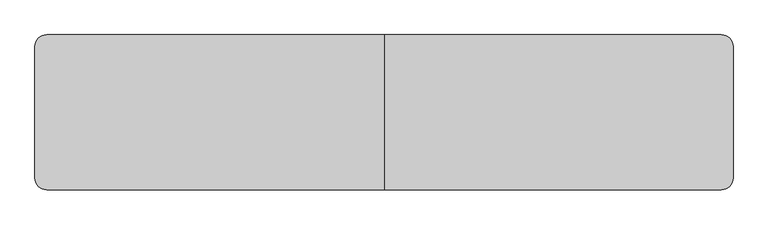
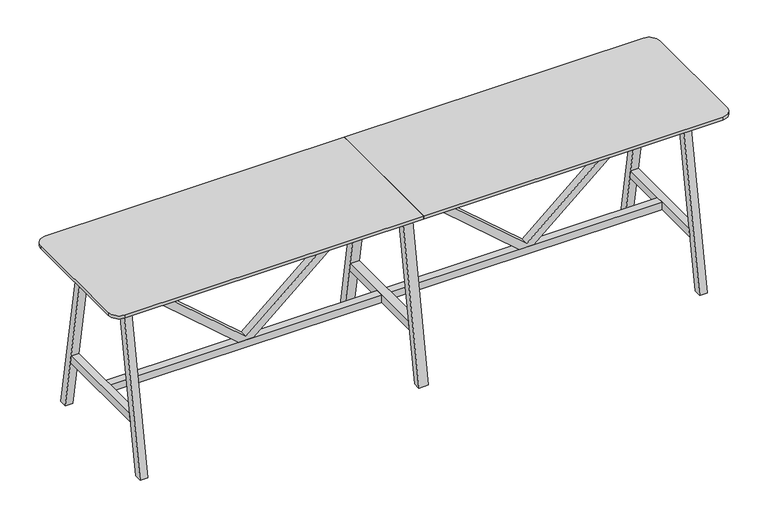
"""IFC4 building model written with IfcOpenShell, lengths in millimetres: furniture geometry, BDG_BossDesign_Tbls_AgentTables6Legs : AGE-HT-6L-3600-800-3D."""

from ifc_helpers import new_model, si_unit, point, frame, frame_2d, origin, place, context, project, spatial, polyline, circle_curve, trimmed, segment, composite_curve, outline, extrude, source, transform, mapped, element, save


def furniture_dbc55a2c(model_context):
    return source(origin(), model_context, "Body", "SweptSolid", [
        extrude(outline(polyline([(345.0, 774.0823957), (345.0, 858.4176043), (992.0, 1605.0), (1032.0, 1605.0), (1032.0, 1585.0), (365.0, 816.25), (1032.0, 47.5), (1032.0, 27.5), (992.0, 27.5), (345.0, 774.0823957)])), frame((0.0, -22.5000305, 0.0), z_axis=(0.0, 1.0, 0.0), x_axis=(0.0, 0.0, 1.0)), (0.0, 0.0, 1.0), 45.000061),
        extrude(outline(polyline([(345.0, -774.0823957), (992.0, -27.5), (1032.0, -27.5), (1032.0, -47.5), (365.0, -816.25), (1032.0, -1585.0), (1032.0, -1605.0), (992.0, -1605.0), (345.0, -858.4176043), (345.0, -774.0823957)])), frame((0.0, -22.5000305, 0.0), z_axis=(0.0, 1.0, 0.0), x_axis=(0.0, 0.0, 1.0)), (0.0, 0.0, 1.0), 45.000061),
        extrude(outline(polyline([(400.0, 0.0), (354.9999949, 0.0), (185.5, 970.0), (230.5000051, 970.0), (400.0, 0.0)])), frame((-27.5, 0.0, 0.0), z_axis=(1.0, 0.0, 0.0), x_axis=(0.0, 1.0, 0.0)), (0.0, 0.0, 1.0), 55.0),
        extrude(outline(polyline([(-400.0, 0.0), (-230.5000051, 970.0), (-185.5, 970.0), (-354.9999949, 0.0), (-400.0, 0.0)])), frame((-27.5, 0.0, 0.0), z_axis=(1.0, 0.0, 0.0), x_axis=(0.0, 1.0, 0.0)), (0.0, 0.0, 1.0), 55.0),
        extrude(outline(polyline([(302.5773161, 300.0), (-302.5773161, 300.0), (-294.7139143, 345.0), (294.7139143, 345.0), (302.5773161, 300.0)])), frame((-27.5, 0.0, 0.0), z_axis=(1.0, 0.0, 0.0), x_axis=(0.0, 1.0, 0.0)), (0.0, 0.0, 1.0), 55.0),
        extrude(outline(composite_curve([segment(polyline([(0.0, 400.0), (0.0, -400.0), (-1740.0, -400.0)]), True, "CONTINUOUS"), segment(trimmed(circle_curve(frame_2d((-1740.0, -340.0)), 60.0), [point((-1740.0, -400.0))], [point((-1800.0, -340.0))], False, "CARTESIAN"), True, "CONTINUOUS"), segment(polyline([(-1800.0, -340.0), (-1800.0, 340.0)]), True, "CONTINUOUS"), segment(trimmed(circle_curve(frame_2d((-1740.0, 340.0)), 60.0), [point((-1800.0, 340.0))], [point((-1740.0, 400.0))], False, "CARTESIAN"), True, "CONTINUOUS"), segment(polyline([(-1740.0, 400.0), (0.0, 400.0)]), True, "CONTINUOUS")], self_intersect=False)), frame((0.0, 0.0, 1032.0), z_axis=(0.0, 0.0, 1.0), x_axis=(1.0, 0.0, 0.0)), (0.0, 0.0, 1.0), 18.0),
        extrude(outline(polyline([(-294.7139143, 345.0), (294.7139143, 345.0), (302.5773161, 300.0), (-302.5773161, 300.0), (-294.7139143, 345.0)])), frame((1605.0, 0.0, 0.0), z_axis=(1.0, 0.0, 0.0), x_axis=(0.0, 1.0, 0.0)), (0.0, 0.0, 1.0), 45.0),
        extrude(outline(polyline([(400.0, 0.0), (354.9999949, 0.0), (185.5, 970.0), (230.5000051, 970.0), (400.0, 0.0)])), frame((-1650.0, 0.0, 0.0), z_axis=(1.0, 0.0, 0.0), x_axis=(0.0, 1.0, 0.0)), (0.0, 0.0, 1.0), 45.0),
        extrude(outline(polyline([(-400.0, 0.0), (-230.5000051, 970.0), (-185.5, 970.0), (-354.9999949, 0.0), (-400.0, 0.0)])), frame((-1650.0, 0.0, 0.0), z_axis=(1.0, 0.0, 0.0), x_axis=(0.0, 1.0, 0.0)), (0.0, 0.0, 1.0), 45.0),
        extrude(outline(polyline([(-294.7139143, 345.0), (294.7139143, 345.0), (302.5773161, 300.0), (-302.5773161, 300.0), (-294.7139143, 345.0)])), frame((-1650.0, 0.0, 0.0), z_axis=(1.0, 0.0, 0.0), x_axis=(0.0, 1.0, 0.0)), (0.0, 0.0, 1.0), 45.0),
        extrude(outline(polyline([(-226.6006165, 944.973938), (-204.2770691, 1032.0), (-179.5, 1032.0), (-201.8235474, 944.973938), (-226.6006165, 944.973938)])), frame((-1605.0, 0.0, 0.0), z_axis=(1.0, 0.0, 0.0), x_axis=(0.0, 1.0, 0.0)), (0.0, 0.0, 1.0), 3210.0),
        extrude(outline(polyline([(226.6006165, 944.973938), (201.8235474, 944.973938), (179.5, 1032.0), (204.2770691, 1032.0), (226.6006165, 944.973938)])), frame((-1605.0, 0.0, 0.0), z_axis=(1.0, 0.0, 0.0), x_axis=(0.0, 1.0, 0.0)), (0.0, 0.0, 1.0), 3210.0),
        extrude(outline(polyline([(399.7999878, 0.0), (354.7999827, 0.0), (185.5, 970.0), (230.5000051, 970.0), (399.7999878, 0.0)])), frame((1605.0, 0.0, 0.0), z_axis=(1.0, 0.0, 0.0), x_axis=(0.0, 1.0, 0.0)), (0.0, 0.0, 1.0), 45.0),
        extrude(outline(polyline([(-399.7999878, 0.0), (-230.5000051, 970.0), (-185.5, 970.0), (-354.7999827, 0.0), (-399.7999878, 0.0)])), frame((1605.0, 0.0, 0.0), z_axis=(1.0, 0.0, 0.0), x_axis=(0.0, 1.0, 0.0)), (0.0, 0.0, 1.0), 45.0),
        extrude(outline(polyline([(-27.5, 22.5000305), (-27.5, -22.5000305), (-1605.0, -22.5000305), (-1605.0, 22.5000305), (-27.5, 22.5000305)])), frame((0.0, 0.0, 300.0), z_axis=(0.0, 0.0, 1.0), x_axis=(1.0, 0.0, 0.0)), (0.0, 0.0, 1.0), 45.0),
        extrude(outline(polyline([(27.5, -22.5000305), (27.5, 22.5000305), (1605.0, 22.5000305), (1605.0, -22.5000305), (27.5, -22.5000305)])), frame((0.0, 0.0, 300.0), z_axis=(0.0, 0.0, 1.0), x_axis=(1.0, 0.0, 0.0)), (0.0, 0.0, 1.0), 45.0),
        extrude(outline(composite_curve([segment(trimmed(circle_curve(frame_2d((1740.0, 340.0)), 60.0), [point((1740.0, 400.0))], [point((1800.0, 340.0))], False, "CARTESIAN"), True, "CONTINUOUS"), segment(polyline([(1800.0, 340.0), (1800.0, -340.0)]), True, "CONTINUOUS"), segment(trimmed(circle_curve(frame_2d((1740.0, -340.0)), 60.0), [point((1800.0, -340.0))], [point((1740.0, -400.0))], False, "CARTESIAN"), True, "CONTINUOUS"), segment(polyline([(1740.0, -400.0), (0.0, -400.0), (0.0, 400.0), (1740.0, 400.0)]), True, "CONTINUOUS")], self_intersect=False)), frame((0.0, 0.0, 1032.0), z_axis=(0.0, 0.0, 1.0), x_axis=(1.0, 0.0, 0.0)), (0.0, 0.0, 1.0), 18.0),
    ])


if __name__ == "__main__":
    model = new_model("IFC4")
    model_context = context("Model", 3, world=origin())
    ifc_project = project(units=[si_unit("LENGTHUNIT", "METRE", prefix="MILLI")], contexts=[model_context])
    site = spatial("IfcSite", under=ifc_project)
    building = spatial("IfcBuilding", under=site)
    placement = place(None, origin())
    furniture_shape = furniture_dbc55a2c(model_context)
    element("IfcFurniture", 1, ObjectType="BDG_BossDesign_Tbls_AgentTables6Legs : AGE-HT-6L-3600-800-3D", at=placement, inside=building, context=model_context, shape_type="MappedRepresentation", body=[
        mapped(furniture_shape, transform((0.0, 0.0, 0.0), x_axis=(1.0, 0.0, 0.0), y_axis=(0.0, 1.0, 0.0), z_axis=(0.0, 0.0, 1.0))),
    ])
    save(model, "model.ifc")
